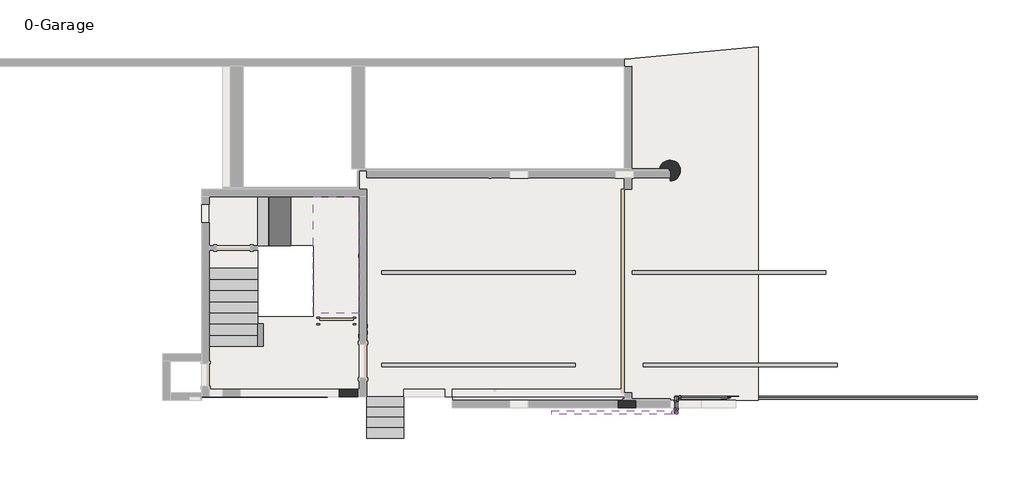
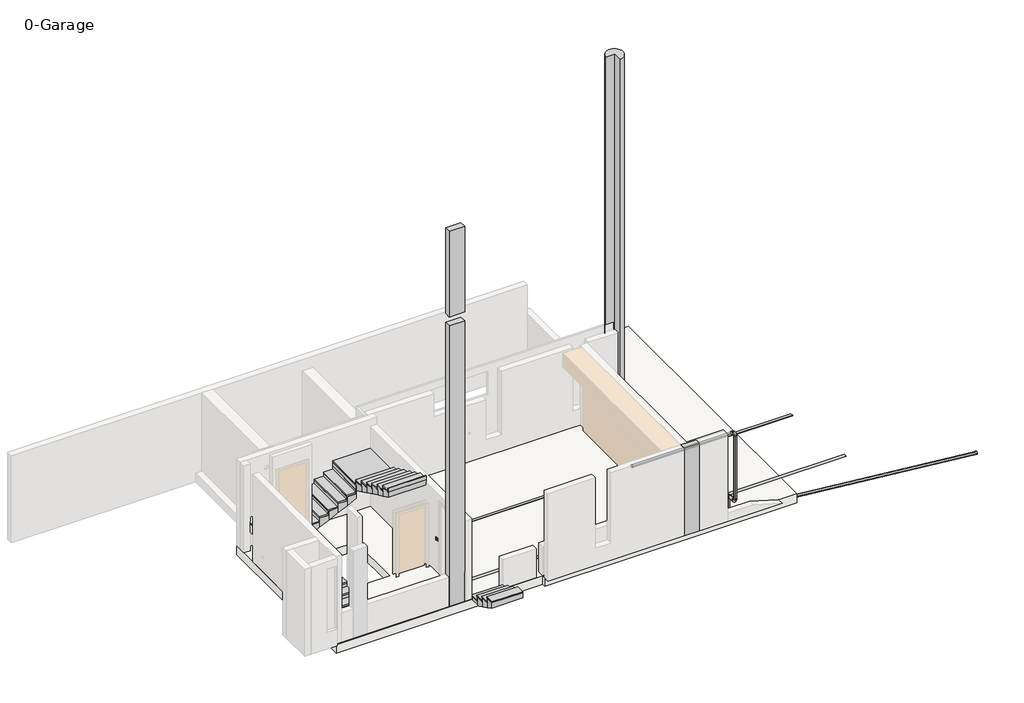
# One storey, part 2 of 2: 6 proxies, 5 pipe segments, 4 pipe fittings, 4 stair flights, 3 columns, 2 slabs, 2 switching devices.
"""IFC4 building model written with IfcOpenShell, lengths in millimetres."""

from ifc_helpers import new_model, si_unit, point, frame, frame_2d, origin, origin_with_axes, place, context, project, spatial, polyline, circle_curve, trimmed, segment, composite_curve, outline, extrude, faceted_brep, transform, mapped, element, save
from components import m_parking_space_4800_x_2400mm_90_deg_4f713f9d, wall_mounted_socket_ups_wall_mounted_socket_ups_4524048d, m_bend_pvc_sch_40_dwv_standard_a4b99d37, m_bend_pvc_sch_40_dwv_standard_eec6c4e3, switching_device_8f59fbb7, switching_device_ab05ab5c

model = new_model("IFC4")

# Units and contexts
model_context = context("Model", 3, world=origin())
ifc_project = project(units=[si_unit("LENGTHUNIT", "METRE", prefix="MILLI")], contexts=[model_context])

# Site, building, storey
site = spatial("IfcSite", under=ifc_project)
building = spatial("IfcBuilding", under=site)
storey = spatial("IfcBuildingStorey", under=building, Name="0-Garage", Elevation=0.0)

# Proxies
placement = place(None, origin())
m_parking_space_4800_x_2400mm_90_deg_shape = m_parking_space_4800_x_2400mm_90_deg_4f713f9d(model_context)
element("IfcBuildingElementProxy", 1, Name="M_Parking Space : 4800 x 2400mm - 90 deg", ObjectType="M_Parking Space : 4800 x 2400mm - 90 deg", at=placement, inside=storey, context=model_context, shape_type="MappedRepresentation", body=[
    mapped(m_parking_space_4800_x_2400mm_90_deg_shape, transform((-227.4765921, 6466.6818152, 0.0), x_axis=(0.0, 1.0, 0.0), y_axis=(-1.0, 0.0, 0.0), z_axis=(0.0, 0.0, 1.0))),
])
element("IfcBuildingElementProxy", 2, Name="M_Parking Space : 4800 x 2400mm - 90 deg", ObjectType="M_Parking Space : 4800 x 2400mm - 90 deg", at=placement, inside=storey, context=model_context, shape_type="MappedRepresentation", body=[
    mapped(m_parking_space_4800_x_2400mm_90_deg_shape, transform((6495.2431289, 6466.6818152, 0.0), x_axis=(0.0, 1.0, 0.0), y_axis=(-1.0, 0.0, 0.0), z_axis=(0.0, 0.0, 1.0))),
])
element("IfcBuildingElementProxy", 3, Name="M_Parking Space : 4800 x 2400mm - 90 deg", ObjectType="M_Parking Space : 4800 x 2400mm - 90 deg", at=placement, inside=storey, context=model_context, shape_type="MappedRepresentation", body=[
    mapped(m_parking_space_4800_x_2400mm_90_deg_shape, transform((-227.4765921, 3983.0788042, 0.0), x_axis=(0.0, 1.0, 0.0), y_axis=(-1.0, 0.0, 0.0), z_axis=(0.0, 0.0, 1.0))),
])
element("IfcBuildingElementProxy", 4, Name="M_Parking Space : 4800 x 2400mm - 90 deg", ObjectType="M_Parking Space : 4800 x 2400mm - 90 deg", at=placement, inside=storey, context=model_context, shape_type="MappedRepresentation", body=[
    mapped(m_parking_space_4800_x_2400mm_90_deg_shape, transform((6795.2431289, 3983.0788042, 0.0), x_axis=(0.0, 1.0, 0.0), y_axis=(-1.0, 0.0, 0.0), z_axis=(0.0, 0.0, 1.0))),
])
wall_mounted_socket_ups_wall_mounted_socket_ups_shape = wall_mounted_socket_ups_wall_mounted_socket_ups_4524048d(model_context)
element("IfcBuildingElementProxy", 5, Name="WALL MOUNTED SOCKET : WALL MOUNTED SOCKET", ObjectType="WALL MOUNTED SOCKET : WALL MOUNTED SOCKET", at=placement, inside=storey, context=model_context, shape_type="MappedRepresentation", body=[
    mapped(wall_mounted_socket_ups_wall_mounted_socket_ups_shape, transform((-827.4765921, 6914.4560655, 450.0), x_axis=(0.0, -1.0, 0.0), y_axis=(0.0, 0.0, 1.0), z_axis=(-1.0, 0.0, 0.0))),
])
element("IfcBuildingElementProxy", 6, Name="WALL MOUNTED SOCKET : WALL MOUNTED SOCKET", ObjectType="WALL MOUNTED SOCKET : WALL MOUNTED SOCKET", at=placement, inside=storey, context=model_context, shape_type="MappedRepresentation", body=[
    mapped(wall_mounted_socket_ups_wall_mounted_socket_ups_shape, transform((-627.4765921, 5024.4560655, 450.0), x_axis=(0.0, 1.0, 0.0), y_axis=(0.0, 0.0, 1.0), z_axis=(1.0, 0.0, 0.0))),
])

# Columns
element("IfcColumn", 7, ObjectType="M_Concrete-Rectangular-Column : 200 x500mm", at=placement, inside=storey, context=model_context, shape_type="SweptSolid", body=[
    extrude(outline(polyline([(6605.5234079, 3030.6486583), (6605.5234079, 2830.6486583), (6105.5234079, 2830.6486583), (6105.5234079, 3030.6486583), (6605.5234079, 3030.6486583)])), origin_with_axes(), (0.0, 0.0, 1.0), 3000.0),
])
element("IfcColumn", 8, ObjectType="M_Concrete-Rectangular-Column : 200 x500mm", at=placement, inside=storey, context=model_context, shape_type="Brep", body=[
    faceted_brep([(-1367.4765921, 3134.4560655, 0.0), (-1367.4765921, 3334.4560655, 0.0), (-867.4765921, 3334.4560655, 0.0), (-867.4765921, 3134.4560655, 0.0), (-1367.4765921, 3334.4560655, 9650.0), (-1367.4765921, 3134.4560655, 9650.0), (-867.4765921, 3134.4560655, 9650.0), (-867.4765921, 3334.4560655, 9650.0), (-1367.4765921, 3134.4560655, 1000.0), (-1367.4765921, 3134.4560655, 3000.0), (-1367.4765921, 3134.4560655, 6425.5545865), (-1367.4765921, 3134.4560655, 6550.0), (-1367.4765921, 3334.4560655, 6550.0), (-1367.4765921, 3334.4560655, 1000.0), (-867.4765921, 3334.4560655, 6550.0), (-867.4765921, 3134.4560655, 6550.0)], [[[0, 1, 2, 3]], [[4, 5, 6, 7]], [[1, 0, 8, 9, 10, 11, 5, 4, 12, 13]], [[2, 1, 13, 12, 4, 7, 14]], [[3, 2, 14, 7, 6, 15]], [[0, 3, 15, 6, 5, 11, 10, 9, 8]]]),
    faceted_brep([(-1367.4765921, 3134.4560655, 12900.0), (-1367.4765921, 3334.4560655, 12900.0), (-1367.4765921, 3334.4560655, 9950.0), (-1367.4765921, 3134.4560655, 9950.0), (-867.4765921, 3334.4560655, 12900.0), (-867.4765921, 3334.4560655, 9950.0), (-867.4765921, 3134.4560655, 12900.0), (-867.4765921, 3134.4560655, 9950.0)], [[[0, 1, 2, 3]], [[1, 4, 5, 2]], [[4, 6, 7, 5]], [[6, 0, 3, 7]], [[1, 0, 6, 4]], [[3, 2, 5, 7]]]),
])
element("IfcColumn", 9, ObjectType="Structural Columns 1 : Structural Columns 1", at=placement, inside=storey, context=model_context, shape_type="SweptSolid", body=[
    extrude(outline(composite_curve([segment(trimmed(circle_curve(frame_2d((7512.5234079, 9201.6620874)), 280.0), [point((7232.5234079, 9201.6620874))], [point((7512.5234079, 8921.6620874))], False, "CARTESIAN"), True, "CONTINUOUS"), segment(polyline([(7512.5234079, 8921.6620874), (7512.5234079, 9201.6620874), (7232.5234079, 9201.6620874)]), True, "CONTINUOUS")], self_intersect=False)), origin_with_axes(), (0.0, 0.0, 1.0), 12190.0),
])

# Pipe fittings
m_bend_pvc_sch_40_dwv_standard_shape = m_bend_pvc_sch_40_dwv_standard_a4b99d37(model_context)
element("IfcPipeFitting", 10, ObjectType="M_Bend - PVC - Sch 40 - DWV : Standard", at=placement, inside=storey, context=model_context, shape_type="MappedRepresentation", body=[
    mapped(m_bend_pvc_sch_40_dwv_standard_shape, transform((7680.5234079, 2705.8515547, 3090.0), x_axis=(1.0, 0.0, 0.0), y_axis=(0.0, 0.0, -1.0), z_axis=(0.0, 1.0, 0.0))),
])
element("IfcPipeFitting", 11, ObjectType="M_Bend - PVC - Sch 40 - DWV : Standard", at=placement, inside=storey, context=model_context, shape_type="MappedRepresentation", body=[
    mapped(m_bend_pvc_sch_40_dwv_standard_shape, transform((7680.5234079, 2705.8515547, 695.2), x_axis=(0.0, 0.0, -1.0), y_axis=(0.0, 1.0, 0.0), z_axis=(1.0, 0.0, 0.0))),
])
element("IfcPipeFitting", 12, ObjectType="M_Bend - PVC - Sch 40 - DWV : Standard", at=placement, inside=storey, context=model_context, shape_type="MappedRepresentation", body=[
    mapped(m_bend_pvc_sch_40_dwv_standard_shape, transform((7680.5234079, 3105.8515547, 695.2), x_axis=(0.0, 1.0, 0.0), y_axis=(0.0, 0.0, -1.0), z_axis=(-1.0, 0.0, 0.0))),
])
m_bend_pvc_sch_40_dwv_standard_2_shape = m_bend_pvc_sch_40_dwv_standard_eec6c4e3(model_context)
element("IfcPipeFitting", 13, ObjectType="M_Bend - PVC - Sch 40 - DWV : Standard", at=placement, inside=storey, context=model_context, shape_type="MappedRepresentation", body=[
    mapped(m_bend_pvc_sch_40_dwv_standard_2_shape, transform((7680.5234079, 3105.8515547, 100.0), x_axis=(0.0, 0.0, -1.0), y_axis=(0.9999999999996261, 8.648615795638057e-07, 0.0), z_axis=(8.648615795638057e-07, -0.9999999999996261, 0.0))),
])

# Pipe segments
element("IfcPipeSegment", 14, ObjectType="PVC - DWV", at=placement, inside=storey, context=model_context, shape_type="SweptSolid", body=[
    extrude(outline(composite_curve([segment(trimmed(circle_curve(frame_2d((2705.8515547, 3090.0)), 44.45), [point((2661.4015547, 3090.0))], [point((2705.8515547, 3134.45))], False, "CARTESIAN"), True, "CONTINUOUS"), segment(trimmed(circle_curve(frame_2d((2705.8515547, 3090.0)), 44.45), [point((2705.8515547, 3134.45))], [point((2750.3015547, 3090.0))], False, "CARTESIAN"), True, "CONTINUOUS"), segment(trimmed(circle_curve(frame_2d((2705.8515547, 3090.0)), 44.45), [point((2750.3015547, 3090.0))], [point((2705.8515547, 3045.55))], False, "CARTESIAN"), True, "CONTINUOUS"), segment(trimmed(circle_curve(frame_2d((2705.8515547, 3090.0)), 44.45), [point((2705.8515547, 3045.55))], [point((2661.4015547, 3090.0))], False, "CARTESIAN"), True, "CONTINUOUS")], self_intersect=False)), frame((4331.9107756, 0.0, 0.0), z_axis=(1.0, 0.0, 0.0), x_axis=(0.0, 1.0, 0.0)), (0.0, 0.0, 1.0), 3232.7124323),
])
element("IfcPipeSegment", 15, ObjectType="PVC - DWV", at=placement, inside=storey, context=model_context, shape_type="SweptSolid", body=[
    extrude(outline(composite_curve([segment(trimmed(circle_curve(frame_2d((7680.5234079, 2705.8515547)), 44.45), [point((7724.9734079, 2705.8515547))], [point((7680.5234079, 2661.4015547))], False, "CARTESIAN"), True, "CONTINUOUS"), segment(trimmed(circle_curve(frame_2d((7680.5234079, 2705.8515547)), 44.45), [point((7680.5234079, 2661.4015547))], [point((7636.0734079, 2705.8515547))], False, "CARTESIAN"), True, "CONTINUOUS"), segment(trimmed(circle_curve(frame_2d((7680.5234079, 2705.8515547)), 44.45), [point((7636.0734079, 2705.8515547))], [point((7680.5234079, 2750.3015547))], False, "CARTESIAN"), True, "CONTINUOUS"), segment(trimmed(circle_curve(frame_2d((7680.5234079, 2705.8515547)), 44.45), [point((7680.5234079, 2750.3015547))], [point((7724.9734079, 2705.8515547))], False, "CARTESIAN"), True, "CONTINUOUS")], self_intersect=False)), frame((0.0, 0.0, 811.1002), z_axis=(0.0, 0.0, 1.0), x_axis=(1.0, 0.0, 0.0)), (0.0, 0.0, 1.0), 2162.9996),
])
element("IfcPipeSegment", 16, ObjectType="PVC - DWV", at=placement, inside=storey, context=model_context, shape_type="SweptSolid", body=[
    extrude(outline(composite_curve([segment(trimmed(circle_curve(frame_2d((695.2, 7680.5234079)), 44.45), [point((695.2, 7724.9734079))], [point((739.65, 7680.5234079))], False, "CARTESIAN"), True, "CONTINUOUS"), segment(trimmed(circle_curve(frame_2d((695.2, 7680.5234079)), 44.45), [point((739.65, 7680.5234079))], [point((695.2, 7636.0734079))], False, "CARTESIAN"), True, "CONTINUOUS"), segment(trimmed(circle_curve(frame_2d((695.2, 7680.5234079)), 44.45), [point((695.2, 7636.0734079))], [point((650.75, 7680.5234079))], False, "CARTESIAN"), True, "CONTINUOUS"), segment(trimmed(circle_curve(frame_2d((695.2, 7680.5234079)), 44.45), [point((650.75, 7680.5234079))], [point((695.2, 7724.9734079))], False, "CARTESIAN"), True, "CONTINUOUS")], self_intersect=False)), frame((0.0, 2821.7517547, 0.0), z_axis=(0.0, 1.0, 0.0), x_axis=(0.0, 0.0, 1.0)), (0.0, 0.0, 1.0), 168.1996),
])
element("IfcPipeSegment", 17, ObjectType="PVC - DWV", at=placement, inside=storey, context=model_context, shape_type="SweptSolid", body=[
    extrude(outline(composite_curve([segment(trimmed(circle_curve(frame_2d((0.0, -44.45)), 44.45), [point((0.0003901, -88.9))], [point((-44.45, -44.4503902))], False, "CARTESIAN"), True, "CONTINUOUS"), segment(trimmed(circle_curve(frame_2d((0.0, -44.45)), 44.45), [point((-44.45, -44.4503902))], [point((-0.0003902, 0.0))], False, "CARTESIAN"), True, "CONTINUOUS"), segment(trimmed(circle_curve(frame_2d((0.0, -44.45)), 44.45), [point((-0.0003902, 0.0))], [point((44.45, -44.4496098))], False, "CARTESIAN"), True, "CONTINUOUS"), segment(trimmed(circle_curve(frame_2d((0.0, -44.45)), 44.45), [point((44.45, -44.4496098))], [point((0.0003901, -88.9))], False, "CARTESIAN"), True, "CONTINUOUS")], self_intersect=False)), frame((15760.4432184, 3150.3085427, -699.9996117), z_axis=(-0.9951341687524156, -8.606533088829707e-07, 0.09852911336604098), x_axis=(0.0985291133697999, -8.69251215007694e-06, 0.995134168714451)), (0.0, 0.0, 1.0), 8003.527375),
])
element("IfcPipeSegment", 18, ObjectType="PVC - DWV", at=placement, inside=storey, context=model_context, shape_type="SweptSolid", body=[
    extrude(outline(composite_curve([segment(trimmed(circle_curve(frame_2d((7680.5234079, 3105.8515547)), 44.45), [point((7724.9734079, 3105.8515547))], [point((7680.5234079, 3061.4015547))], False, "CARTESIAN"), True, "CONTINUOUS"), segment(trimmed(circle_curve(frame_2d((7680.5234079, 3105.8515547)), 44.45), [point((7680.5234079, 3061.4015547))], [point((7636.0734079, 3105.8515547))], False, "CARTESIAN"), True, "CONTINUOUS"), segment(trimmed(circle_curve(frame_2d((7680.5234079, 3105.8515547)), 44.45), [point((7636.0734079, 3105.8515547))], [point((7680.5234079, 3150.3015547))], False, "CARTESIAN"), True, "CONTINUOUS"), segment(trimmed(circle_curve(frame_2d((7680.5234079, 3105.8515547)), 44.45), [point((7680.5234079, 3150.3015547))], [point((7724.9734079, 3105.8515547))], False, "CARTESIAN"), True, "CONTINUOUS")], self_intersect=False)), frame((0.0, 0.0, 215.9002), z_axis=(0.0, 0.0, 1.0), x_axis=(1.0, 0.0, 0.0)), (0.0, 0.0, 1.0), 363.3996),
])

# Slabs
element("IfcSlab", 19, ObjectType="300mm Foundation Slab 2", at=placement, inside=storey, context=model_context, shape_type="Brep", body=[
    faceted_brep([(-5057.4765921, 3101.5321254, -300.0), (-5057.4765921, 4204.4560655, -300.0), (-5057.4765921, 8701.6620874, -300.0), (-877.4765921, 8701.6620874, -300.0), (-827.4765921, 8701.6620874, -300.0), (-827.4765921, 9201.6620874, -300.0), (6287.8774899, 9201.6620874, -300.0), (6287.8774899, 12182.7092562, -300.0), (9876.3853705, 12530.2666202, -300.0), (9876.3853705, 3030.6486583, -300.0), (1674.9666632, 3030.6486583, -300.0), (1674.9666632, 3134.4560655, -300.0), (-2057.4765921, 7184.4560654, -300.0), (-3557.4765921, 7184.4560654, -300.0), (-3557.4765921, 5284.4560655, -300.0), (-3407.4765921, 5284.4560655, -300.0), (-2207.4765921, 5284.4560655, -300.0), (-2057.4765921, 5284.4560655, -300.0), (-5057.4765921, 3101.5321254, 0.0), (1674.9666632, 3134.4560655, 0.0), (1674.9666632, 3030.6486583, 0.0), (9876.3853705, 3030.6486583, 0.0), (9876.3853705, 12530.2666202, 0.0), (6287.8774899, 12182.7092562, 0.0), (6287.8774899, 9201.6620874, 0.0), (-827.4765921, 9201.6620874, 0.0), (-827.4765921, 8701.6620874, 0.0), (-5057.4765921, 8701.6620874, 0.0), (-5057.4765921, 4204.4560655, 0.0), (-2057.4765921, 7184.4560654, 0.0), (-2057.4765921, 5284.4560655, 0.0), (-3557.4765921, 5284.4560655, 0.0), (-3557.4765921, 7184.4560654, 0.0)], [[[0, 1, 2, 3, 4, 5, 6, 7, 8, 9, 10, 11], [12, 13, 14, 15, 16, 17]], [[18, 19, 20, 21, 22, 23, 24, 25, 26, 27, 28], [29, 30, 31, 32]], [[1, 0, 18, 28]], [[2, 1, 28, 27]], [[4, 3, 2, 27, 26]], [[5, 4, 26, 25]], [[6, 5, 25, 24]], [[7, 6, 24, 23]], [[8, 7, 23, 22]], [[10, 9, 21, 20]], [[11, 10, 20, 19]], [[13, 12, 29, 32]], [[14, 13, 32, 31]], [[17, 16, 15, 14, 31, 30]], [[12, 17, 30, 29]], [[0, 11, 19, 18]], [[9, 8, 22, 21]]]),
])
element("IfcSlab", 20, ObjectType="300mm Thickness", at=placement, inside=storey, context=model_context, shape_type="SweptSolid", body=[
    extrude(outline(polyline([(-3557.4765921, 6584.4560655), (-4857.4765921, 6584.4560655), (-4857.4765921, 8501.6620874), (-3557.4765921, 8501.6620874), (-3557.4765921, 6584.4560655)])), frame((0.0, 0.0, 650.0), z_axis=(0.0, 0.0, 1.0), x_axis=(1.0, 0.0, 0.0)), (0.0, 0.0, 1.0), 300.0),
    extrude(outline(polyline([(-4857.4765921, 6584.4560655), (-4857.4765921, 8501.6620874), (-3557.4765921, 8501.6620874), (-3557.4765921, 6584.4560655), (-4857.4765921, 6584.4560655)])), frame((0.0, 0.0, 950.0), z_axis=(0.0, 0.0, 1.0), x_axis=(1.0, 0.0, 0.0)), (0.0, 0.0, 1.0), 50.0),
])

# Stair flights
element("IfcStairFlight", 21, ObjectType="150mm Depth", at=placement, inside=storey, context=model_context, shape_type="SolidModel", body=[
    faceted_brep([(372.5234079, 2821.9560655, 115.0), (372.5234079, 3101.9560655, 115.0), (-627.4765921, 3101.9560655, 115.0), (-627.4765921, 2821.9560655, 115.0), (372.5234079, 2821.9560655, 0.0), (372.5234079, 3101.9560655, 0.0), (-627.4765921, 3101.9560655, 0.0), (-627.4765921, 2821.9560655, 0.0), (372.5234079, 2541.9560655, 260.0), (372.5234079, 2821.9560655, 260.0), (-627.4765921, 2821.9560655, 260.0), (-627.4765921, 2541.9560655, 260.0), (372.5234079, 2541.9560655, 91.0800176), (372.5234079, 2717.8347201, 0.0), (-627.4765921, 2717.8347201, 0.0), (-627.4765921, 2541.9560655, 91.0800176), (372.5234079, 2261.9560655, 405.0), (372.5234079, 2541.9560655, 405.0), (-627.4765921, 2541.9560655, 405.0), (-627.4765921, 2261.9560655, 405.0), (372.5234079, 2261.9560655, 236.0800176), (-627.4765921, 2261.9560655, 236.0800176), (372.5234079, 2014.4560655, 364.2496604), (-627.4765921, 2014.4560655, 364.2496604), (372.5234079, 2014.4560655, 550.0), (372.5234079, 2261.9560655, 550.0), (-627.4765921, 2261.9560655, 550.0), (-627.4765921, 2014.4560655, 550.0)], [[[0, 1, 2, 3]], [[1, 0, 4, 5]], [[2, 1, 5, 6]], [[3, 2, 6, 7]], [[8, 9, 10, 11]], [[4, 0, 9, 8, 12, 13]], [[0, 3, 10, 9]], [[3, 7, 14, 15, 11, 10]], [[16, 17, 18, 19]], [[17, 16, 20, 12, 8]], [[8, 11, 18, 17]], [[19, 18, 11, 15, 21]], [[5, 4, 13, 14, 7, 6]], [[14, 13, 12, 20, 22, 23, 21, 15]], [[24, 25, 26, 27]], [[25, 24, 22, 20, 16]], [[16, 19, 26, 25]], [[27, 26, 19, 21, 23]], [[24, 27, 23, 22]]]),
    extrude(outline(polyline([(-627.4765921, 3101.9560655), (-627.4765921, 3114.4560655), (372.5234079, 3114.4560655), (372.5234079, 3101.9560655), (-627.4765921, 3101.9560655)])), origin_with_axes(), (0.0, 0.0, 1.0), 115.0),
    extrude(outline(polyline([(372.5234079, 2834.4560655), (-627.4765921, 2834.4560655), (-627.4765921, 3134.4560655), (372.5234079, 3134.4560655), (372.5234079, 2834.4560655)])), frame((0.0, 0.0, 115.0), z_axis=(0.0, 0.0, 1.0), x_axis=(1.0, 0.0, 0.0)), (0.0, 0.0, 1.0), 30.0),
    extrude(outline(polyline([(-627.4765921, 2821.9560655), (-627.4765921, 2834.4560655), (372.5234079, 2834.4560655), (372.5234079, 2821.9560655), (-627.4765921, 2821.9560655)])), frame((0.0, 0.0, 115.0), z_axis=(0.0, 0.0, 1.0), x_axis=(1.0, 0.0, 0.0)), (0.0, 0.0, 1.0), 145.0),
    extrude(outline(polyline([(372.5234079, 2554.4560655), (-627.4765921, 2554.4560655), (-627.4765921, 2854.4560655), (372.5234079, 2854.4560655), (372.5234079, 2554.4560655)])), frame((0.0, 0.0, 260.0), z_axis=(0.0, 0.0, 1.0), x_axis=(1.0, 0.0, 0.0)), (0.0, 0.0, 1.0), 30.0),
    extrude(outline(polyline([(-627.4765921, 2541.9560655), (-627.4765921, 2554.4560655), (372.5234079, 2554.4560655), (372.5234079, 2541.9560655), (-627.4765921, 2541.9560655)])), frame((0.0, 0.0, 260.0), z_axis=(0.0, 0.0, 1.0), x_axis=(1.0, 0.0, 0.0)), (0.0, 0.0, 1.0), 145.0),
    extrude(outline(polyline([(372.5234079, 2274.4560655), (-627.4765921, 2274.4560655), (-627.4765921, 2574.4560655), (372.5234079, 2574.4560655), (372.5234079, 2274.4560655)])), frame((0.0, 0.0, 405.0), z_axis=(0.0, 0.0, 1.0), x_axis=(1.0, 0.0, 0.0)), (0.0, 0.0, 1.0), 30.0),
    extrude(outline(polyline([(-627.4765921, 2261.9560655), (-627.4765921, 2274.4560655), (372.5234079, 2274.4560655), (372.5234079, 2261.9560655), (-627.4765921, 2261.9560655)])), frame((0.0, 0.0, 405.0), z_axis=(0.0, 0.0, 1.0), x_axis=(1.0, 0.0, 0.0)), (0.0, 0.0, 1.0), 145.0),
    extrude(outline(polyline([(372.5234079, 2014.4560655), (-627.4765921, 2014.4560655), (-627.4765921, 2294.4560655), (372.5234079, 2294.4560655), (372.5234079, 2014.4560655)])), frame((0.0, 0.0, 550.0), z_axis=(0.0, 0.0, 1.0), x_axis=(1.0, 0.0, 0.0)), (0.0, 0.0, 1.0), 30.0),
])
element("IfcStairFlight", 22, ObjectType="full", at=placement, inside=storey, context=model_context, shape_type="SolidModel", body=[
    faceted_brep([(-4857.4765921, 4796.9560655, 92.8571429), (-4857.4765921, 4496.9560655, 92.8571429), (-3557.4765921, 4496.9560655, 92.8571429), (-3557.4765921, 4796.9560655, 92.8571429), (-4857.4765921, 4796.9560655, 0.0), (-4857.4765921, 4496.9560655, 0.0), (-3557.4765921, 4496.9560655, 0.0), (-3557.4765921, 4796.9560655, 0.0), (-4857.4765921, 5096.9560655, 235.7142857), (-4857.4765921, 4796.9560655, 235.7142857), (-3557.4765921, 4796.9560655, 235.7142857), (-3557.4765921, 5096.9560655, 235.7142857), (-4857.4765921, 5096.9560655, 69.5756664), (-4857.4765921, 4950.847166, 0.0), (-3557.4765921, 4950.847166, 0.0), (-3557.4765921, 5096.9560655, 69.5756664), (-4857.4765921, 5396.9560655, 378.5714286), (-4857.4765921, 5096.9560655, 378.5714286), (-3557.4765921, 5096.9560655, 378.5714286), (-3557.4765921, 5396.9560655, 378.5714286), (-4857.4765921, 5396.9560655, 212.4328093), (-3557.4765921, 5396.9560655, 212.4328093), (-4857.4765921, 5696.9560655, 521.4285714), (-4857.4765921, 5396.9560655, 521.4285714), (-3557.4765921, 5396.9560655, 521.4285714), (-3557.4765921, 5696.9560655, 521.4285714), (-4857.4765921, 5696.9560655, 355.2899521), (-3557.4765921, 5696.9560655, 355.2899521), (-4857.4765921, 5996.9560655, 664.2857143), (-4857.4765921, 5696.9560655, 664.2857143), (-3557.4765921, 5696.9560655, 664.2857143), (-3557.4765921, 5996.9560655, 664.2857143), (-4857.4765921, 5996.9560655, 498.147095), (-3557.4765921, 5996.9560655, 498.147095), (-4857.4765921, 6296.9560655, 807.1428571), (-4857.4765921, 5996.9560655, 807.1428571), (-3557.4765921, 5996.9560655, 807.1428571), (-3557.4765921, 6296.9560655, 807.1428571), (-4857.4765921, 6296.9560655, 641.0042379), (-3557.4765921, 6296.9560655, 641.0042379), (-4857.4765921, 6315.847166, 650.0), (-3557.4765921, 6315.847166, 650.0), (-4857.4765921, 6296.9560655, 950.0), (-3557.4765921, 6296.9560655, 950.0), (-3557.4765921, 6315.847166, 950.0), (-3557.4765921, 6584.4560655, 950.0), (-4857.4765921, 6584.4560655, 950.0), (-4857.4765921, 6315.847166, 950.0), (-4857.4765921, 6584.4560655, 650.0), (-3557.4765921, 6584.4560655, 650.0)], [[[0, 1, 2, 3]], [[1, 0, 4, 5]], [[2, 1, 5, 6]], [[3, 2, 6, 7]], [[8, 9, 10, 11]], [[4, 0, 9, 8, 12, 13]], [[0, 3, 10, 9]], [[3, 7, 14, 15, 11, 10]], [[16, 17, 18, 19]], [[17, 16, 20, 12, 8]], [[8, 11, 18, 17]], [[19, 18, 11, 15, 21]], [[22, 23, 24, 25]], [[23, 22, 26, 20, 16]], [[16, 19, 24, 23]], [[25, 24, 19, 21, 27]], [[28, 29, 30, 31]], [[29, 28, 32, 26, 22]], [[22, 25, 30, 29]], [[31, 30, 25, 27, 33]], [[34, 35, 36, 37]], [[35, 34, 38, 32, 28]], [[28, 31, 36, 35]], [[37, 36, 31, 33, 39]], [[5, 4, 13, 14, 7, 6]], [[40, 41, 39, 33, 27, 21, 15, 14, 13, 12, 20, 26, 32, 38]], [[42, 43, 44, 45, 46, 47]], [[34, 42, 47, 46, 48, 40, 38]], [[34, 37, 43, 42]], [[43, 37, 39, 41, 49, 45, 44]], [[46, 45, 49, 48]], [[41, 40, 48, 49]]]),
    extrude(outline(polyline([(-3557.4765921, 4496.9560655), (-3557.4765921, 4484.4560655), (-4857.4765921, 4484.4560655), (-4857.4765921, 4496.9560655), (-3557.4765921, 4496.9560655)])), origin_with_axes(), (0.0, 0.0, 1.0), 92.8571429),
    extrude(outline(polyline([(-4857.4765921, 4784.4560655), (-3557.4765921, 4784.4560655), (-3557.4765921, 4484.4560655), (-4857.4765921, 4484.4560655), (-4857.4765921, 4784.4560655)])), frame((0.0, 0.0, 92.8571429), z_axis=(0.0, 0.0, 1.0), x_axis=(1.0, 0.0, 0.0)), (0.0, 0.0, 1.0), 50.0),
    extrude(outline(polyline([(-3557.4765921, 4796.9560655), (-3557.4765921, 4784.4560655), (-4857.4765921, 4784.4560655), (-4857.4765921, 4796.9560655), (-3557.4765921, 4796.9560655)])), frame((0.0, 0.0, 92.8571429), z_axis=(0.0, 0.0, 1.0), x_axis=(1.0, 0.0, 0.0)), (0.0, 0.0, 1.0), 142.8571429),
    extrude(outline(polyline([(-4857.4765921, 5084.4560655), (-3557.4765921, 5084.4560655), (-3557.4765921, 4784.4560655), (-4857.4765921, 4784.4560655), (-4857.4765921, 5084.4560655)])), frame((0.0, 0.0, 235.7142857), z_axis=(0.0, 0.0, 1.0), x_axis=(1.0, 0.0, 0.0)), (0.0, 0.0, 1.0), 50.0),
    extrude(outline(polyline([(-3557.4765921, 5096.9560655), (-3557.4765921, 5084.4560655), (-4857.4765921, 5084.4560655), (-4857.4765921, 5096.9560655), (-3557.4765921, 5096.9560655)])), frame((0.0, 0.0, 235.7142857), z_axis=(0.0, 0.0, 1.0), x_axis=(1.0, 0.0, 0.0)), (0.0, 0.0, 1.0), 142.8571429),
    extrude(outline(polyline([(-4857.4765921, 5384.4560655), (-3557.4765921, 5384.4560655), (-3557.4765921, 5084.4560655), (-4857.4765921, 5084.4560655), (-4857.4765921, 5384.4560655)])), frame((0.0, 0.0, 378.5714286), z_axis=(0.0, 0.0, 1.0), x_axis=(1.0, 0.0, 0.0)), (0.0, 0.0, 1.0), 50.0),
    extrude(outline(polyline([(-3557.4765921, 5396.9560655), (-3557.4765921, 5384.4560655), (-4857.4765921, 5384.4560655), (-4857.4765921, 5396.9560655), (-3557.4765921, 5396.9560655)])), frame((0.0, 0.0, 378.5714286), z_axis=(0.0, 0.0, 1.0), x_axis=(1.0, 0.0, 0.0)), (0.0, 0.0, 1.0), 142.8571429),
    extrude(outline(polyline([(-4857.4765921, 5684.4560655), (-3557.4765921, 5684.4560655), (-3557.4765921, 5384.4560655), (-4857.4765921, 5384.4560655), (-4857.4765921, 5684.4560655)])), frame((0.0, 0.0, 521.4285714), z_axis=(0.0, 0.0, 1.0), x_axis=(1.0, 0.0, 0.0)), (0.0, 0.0, 1.0), 50.0),
    extrude(outline(polyline([(-3557.4765921, 5696.9560655), (-3557.4765921, 5684.4560655), (-4857.4765921, 5684.4560655), (-4857.4765921, 5696.9560655), (-3557.4765921, 5696.9560655)])), frame((0.0, 0.0, 521.4285714), z_axis=(0.0, 0.0, 1.0), x_axis=(1.0, 0.0, 0.0)), (0.0, 0.0, 1.0), 142.8571429),
    extrude(outline(polyline([(-4857.4765921, 5984.4560655), (-3557.4765921, 5984.4560655), (-3557.4765921, 5684.4560655), (-4857.4765921, 5684.4560655), (-4857.4765921, 5984.4560655)])), frame((0.0, 0.0, 664.2857143), z_axis=(0.0, 0.0, 1.0), x_axis=(1.0, 0.0, 0.0)), (0.0, 0.0, 1.0), 50.0),
    extrude(outline(polyline([(-3557.4765921, 5996.9560655), (-3557.4765921, 5984.4560655), (-4857.4765921, 5984.4560655), (-4857.4765921, 5996.9560655), (-3557.4765921, 5996.9560655)])), frame((0.0, 0.0, 664.2857143), z_axis=(0.0, 0.0, 1.0), x_axis=(1.0, 0.0, 0.0)), (0.0, 0.0, 1.0), 142.8571429),
    extrude(outline(polyline([(-4857.4765921, 6284.4560655), (-3557.4765921, 6284.4560655), (-3557.4765921, 5984.4560655), (-4857.4765921, 5984.4560655), (-4857.4765921, 6284.4560655)])), frame((0.0, 0.0, 807.1428571), z_axis=(0.0, 0.0, 1.0), x_axis=(1.0, 0.0, 0.0)), (0.0, 0.0, 1.0), 50.0),
    extrude(outline(polyline([(-3557.4765921, 6296.9560655), (-3557.4765921, 6284.4560655), (-4857.4765921, 6284.4560655), (-4857.4765921, 6296.9560655), (-3557.4765921, 6296.9560655)])), frame((0.0, 0.0, 807.1428571), z_axis=(0.0, 0.0, 1.0), x_axis=(1.0, 0.0, 0.0)), (0.0, 0.0, 1.0), 142.8571429),
    extrude(outline(polyline([(-4857.4765921, 6584.4560655), (-3557.4765921, 6584.4560655), (-3557.4765921, 6284.4560655), (-4857.4765921, 6284.4560655), (-4857.4765921, 6584.4560655)])), frame((0.0, 0.0, 950.0), z_axis=(0.0, 0.0, 1.0), x_axis=(1.0, 0.0, 0.0)), (0.0, 0.0, 1.0), 50.0),
])
element("IfcStairFlight", 23, ObjectType="full", at=placement, inside=storey, context=model_context, shape_type="SolidModel", body=[
    faceted_brep([(-3244.9765921, 8501.6620874, 1092.8571429), (-3557.4765921, 8501.6620874, 1092.8571429), (-3557.4765921, 7184.4560655, 1092.8571429), (-3244.9765921, 7184.4560655, 1092.8571429), (-3244.9765921, 8501.6620874, 926.7185236), (-3557.4765921, 8501.6620874, 777.9089998), (-3557.4765921, 7184.4560655, 777.9089998), (-3244.9765921, 7184.4560655, 926.7185236), (-2944.9765921, 8501.6620874, 1069.5756664), (-2644.9765921, 8501.6620874, 1212.4328093), (-2344.9765921, 8501.6620874, 1355.2899521), (-2044.9765921, 8501.6620874, 1498.147095), (-2044.9765921, 7184.4560655, 1498.147095), (-2344.9765921, 7184.4560655, 1355.2899521), (-2644.9765921, 7184.4560655, 1212.4328093), (-2944.9765921, 7184.4560655, 1069.5756664), (-2944.9765921, 8501.6620874, 1235.7142857), (-3244.9765921, 8501.6620874, 1235.7142857), (-3244.9765921, 7184.4560655, 1235.7142857), (-2944.9765921, 7184.4560655, 1235.7142857), (-2644.9765921, 8501.6620874, 1378.5714286), (-2944.9765921, 8501.6620874, 1378.5714286), (-2944.9765921, 7184.4560655, 1378.5714286), (-2644.9765921, 7184.4560655, 1378.5714286), (-2344.9765921, 8501.6620874, 1521.4285714), (-2644.9765921, 8501.6620874, 1521.4285714), (-2644.9765921, 7184.4560655, 1521.4285714), (-2344.9765921, 7184.4560655, 1521.4285714), (-2044.9765921, 8501.6620874, 1664.2857143), (-2344.9765921, 8501.6620874, 1664.2857143), (-2344.9765921, 7184.4560655, 1664.2857143), (-2044.9765921, 7184.4560655, 1664.2857143)], [[[0, 1, 2, 3]], [[1, 0, 4, 5]], [[2, 1, 5, 6]], [[3, 2, 6, 7]], [[5, 4, 8, 9, 10, 11, 12, 13, 14, 15, 7, 6]], [[16, 17, 18, 19]], [[17, 16, 8, 4, 0]], [[18, 17, 0, 3]], [[19, 18, 3, 7, 15]], [[20, 21, 22, 23]], [[21, 20, 9, 8, 16]], [[22, 21, 16, 19]], [[23, 22, 19, 15, 14]], [[24, 25, 26, 27]], [[25, 24, 10, 9, 20]], [[26, 25, 20, 23]], [[27, 26, 23, 14, 13]], [[28, 29, 30, 31]], [[29, 28, 11, 10, 24]], [[30, 29, 24, 27]], [[31, 30, 27, 13, 12]], [[28, 31, 12, 11]]]),
    extrude(outline(polyline([(-3257.4765921, 8501.6620874), (-3257.4765921, 7184.4560655), (-3557.4765921, 7184.4560655), (-3557.4765921, 8501.6620874), (-3257.4765921, 8501.6620874)])), frame((0.0, 0.0, 1092.8571429), z_axis=(0.0, 0.0, 1.0), x_axis=(1.0, 0.0, 0.0)), (0.0, 0.0, 1.0), 50.0),
    extrude(outline(polyline([(-3244.9765921, 7184.4560655), (-3257.4765921, 7184.4560655), (-3257.4765921, 8501.6620874), (-3244.9765921, 8501.6620874), (-3244.9765921, 7184.4560655)])), frame((0.0, 0.0, 1092.8571429), z_axis=(0.0, 0.0, 1.0), x_axis=(1.0, 0.0, 0.0)), (0.0, 0.0, 1.0), 142.8571429),
    extrude(outline(polyline([(-2957.4765921, 8501.6620874), (-2957.4765921, 7184.4560655), (-3257.4765921, 7184.4560655), (-3257.4765921, 8501.6620874), (-2957.4765921, 8501.6620874)])), frame((0.0, 0.0, 1235.7142857), z_axis=(0.0, 0.0, 1.0), x_axis=(1.0, 0.0, 0.0)), (0.0, 0.0, 1.0), 50.0),
    extrude(outline(polyline([(-2944.9765921, 7184.4560655), (-2957.4765921, 7184.4560655), (-2957.4765921, 8501.6620874), (-2944.9765921, 8501.6620874), (-2944.9765921, 7184.4560655)])), frame((0.0, 0.0, 1235.7142857), z_axis=(0.0, 0.0, 1.0), x_axis=(1.0, 0.0, 0.0)), (0.0, 0.0, 1.0), 142.8571429),
    extrude(outline(polyline([(-2657.4765921, 8501.6620874), (-2657.4765921, 7184.4560655), (-2957.4765921, 7184.4560655), (-2957.4765921, 8501.6620874), (-2657.4765921, 8501.6620874)])), frame((0.0, 0.0, 1378.5714286), z_axis=(0.0, 0.0, 1.0), x_axis=(1.0, 0.0, 0.0)), (0.0, 0.0, 1.0), 50.0),
    extrude(outline(polyline([(-2644.9765921, 7184.4560655), (-2657.4765921, 7184.4560655), (-2657.4765921, 8501.6620874), (-2644.9765921, 8501.6620874), (-2644.9765921, 7184.4560655)])), frame((0.0, 0.0, 1378.5714286), z_axis=(0.0, 0.0, 1.0), x_axis=(1.0, 0.0, 0.0)), (0.0, 0.0, 1.0), 142.8571429),
    extrude(outline(polyline([(-2357.4765921, 8501.6620874), (-2357.4765921, 7184.4560655), (-2657.4765921, 7184.4560655), (-2657.4765921, 8501.6620874), (-2357.4765921, 8501.6620874)])), frame((0.0, 0.0, 1521.4285714), z_axis=(0.0, 0.0, 1.0), x_axis=(1.0, 0.0, 0.0)), (0.0, 0.0, 1.0), 50.0),
    extrude(outline(polyline([(-2344.9765921, 7184.4560655), (-2357.4765921, 7184.4560655), (-2357.4765921, 8501.6620874), (-2344.9765921, 8501.6620874), (-2344.9765921, 7184.4560655)])), frame((0.0, 0.0, 1521.4285714), z_axis=(0.0, 0.0, 1.0), x_axis=(1.0, 0.0, 0.0)), (0.0, 0.0, 1.0), 142.8571429),
    extrude(outline(polyline([(-2044.9765921, 7184.4560655), (-2057.4765921, 7184.4560655), (-2057.4765921, 8501.6620874), (-2044.9765921, 8501.6620874), (-2044.9765921, 7184.4560655)])), frame((0.0, 0.0, 1664.2857143), z_axis=(0.0, 0.0, 1.0), x_axis=(1.0, 0.0, 0.0)), (0.0, 0.0, 1.0), 142.8571429),
    extrude(outline(polyline([(-2057.4765921, 8501.6620874), (-2057.4765921, 7184.4560655), (-2357.4765921, 7184.4560655), (-2357.4765921, 8501.6620874), (-2057.4765921, 8501.6620874)])), frame((0.0, 0.0, 1664.2857143), z_axis=(0.0, 0.0, 1.0), x_axis=(1.0, 0.0, 0.0)), (0.0, 0.0, 1.0), 50.0),
])
element("IfcStairFlight", 24, ObjectType="full", at=placement, inside=storey, context=model_context, shape_type="SolidModel", body=[
    faceted_brep([(-827.4765921, 7171.9560655, 1950.0), (-827.4765921, 7184.4560655, 1950.0), (-827.4765921, 8501.6620874, 1950.0), (-2057.4765921, 8501.6620874, 1950.0), (-2057.4765921, 7184.4560655, 1950.0), (-2057.4765921, 7171.9560655, 1950.0), (-827.4765921, 7171.9560655, 1800.0), (-827.4765921, 7184.4560655, 1800.0), (-2057.4765921, 8501.6620874, 1800.0), (-2057.4765921, 7184.4560655, 1800.0), (-2057.4765921, 7171.9560655, 1800.0), (-827.4765921, 7138.064965, 1800.0), (-2057.4765921, 7138.064965, 1800.0), (-827.4765921, 8501.6620874, 1800.0), (-827.4765921, 7171.9560655, 2092.8571429), (-2057.4765921, 7171.9560655, 2092.8571429), (-2057.4765921, 7138.064965, 2092.8571429), (-2057.4765921, 6871.9560655, 2092.8571429), (-827.4765921, 6871.9560655, 2092.8571429), (-827.4765921, 7138.064965, 2092.8571429), (-827.4765921, 6871.9560655, 1926.7185236), (-2057.4765921, 6871.9560655, 1926.7185236), (-827.4765921, 6571.9560655, 2235.7142857), (-827.4765921, 6871.9560655, 2235.7142857), (-2057.4765921, 6871.9560655, 2235.7142857), (-2057.4765921, 6571.9560655, 2235.7142857), (-827.4765921, 6571.9560655, 2069.5756664), (-2057.4765921, 6571.9560655, 2069.5756664), (-827.4765921, 6271.9560655, 2378.5714286), (-827.4765921, 6571.9560655, 2378.5714286), (-2057.4765921, 6571.9560655, 2378.5714286), (-2057.4765921, 6271.9560655, 2378.5714286), (-827.4765921, 6271.9560655, 2212.4328093), (-2057.4765921, 6271.9560655, 2212.4328093), (-827.4765921, 5971.9560655, 2521.4285714), (-827.4765921, 6271.9560655, 2521.4285714), (-2057.4765921, 6271.9560655, 2521.4285714), (-2057.4765921, 5971.9560655, 2521.4285714), (-827.4765921, 5971.9560655, 2355.2899521), (-2057.4765921, 5971.9560655, 2355.2899521), (-827.4765921, 5671.9560655, 2664.2857143), (-827.4765921, 5971.9560655, 2664.2857143), (-2057.4765921, 5971.9560655, 2664.2857143), (-2057.4765921, 5671.9560655, 2664.2857143), (-827.4765921, 5671.9560655, 2498.147095), (-2057.4765921, 5671.9560655, 2498.147095), (-827.4765921, 5371.9560655, 2807.1428571), (-827.4765921, 5671.9560655, 2807.1428571), (-2057.4765921, 5671.9560655, 2807.1428571), (-2057.4765921, 5371.9560655, 2807.1428571), (-827.4765921, 5371.9560655, 2641.0042379), (-2057.4765921, 5371.9560655, 2641.0042379)], [[[0, 1, 2, 3, 4, 5]], [[1, 0, 6, 7]], [[4, 3, 8, 9]], [[5, 4, 9, 10]], [[11, 12, 10, 9, 8, 13, 7, 6]], [[14, 15, 16, 17, 18, 19]], [[0, 14, 19, 18, 20, 11, 6]], [[15, 14, 0, 5]], [[15, 5, 10, 12, 21, 17, 16]], [[22, 23, 24, 25]], [[23, 22, 26, 20, 18]], [[24, 23, 18, 17]], [[25, 24, 17, 21, 27]], [[28, 29, 30, 31]], [[29, 28, 32, 26, 22]], [[30, 29, 22, 25]], [[31, 30, 25, 27, 33]], [[34, 35, 36, 37]], [[35, 34, 38, 32, 28]], [[36, 35, 28, 31]], [[37, 36, 31, 33, 39]], [[40, 41, 42, 43]], [[41, 40, 44, 38, 34]], [[42, 41, 34, 37]], [[43, 42, 37, 39, 45]], [[2, 1, 7, 13]], [[3, 2, 13, 8]], [[46, 47, 48, 49]], [[47, 46, 50, 44, 40]], [[48, 47, 40, 43]], [[49, 48, 43, 45, 51]], [[46, 49, 51, 50]], [[12, 11, 20, 26, 32, 38, 44, 50, 51, 45, 39, 33, 27, 21]]]),
    extrude(outline(polyline([(-827.4765921, 7184.4560655), (-2057.4765921, 7184.4560655), (-2057.4765921, 8501.6620874), (-827.4765921, 8501.6620874), (-827.4765921, 7184.4560655)])), frame((0.0, 0.0, 1950.0), z_axis=(0.0, 0.0, 1.0), x_axis=(1.0, 0.0, 0.0)), (0.0, 0.0, 1.0), 50.0),
    extrude(outline(polyline([(-2057.4765921, 7171.9560655), (-2057.4765921, 7184.4560655), (-827.4765921, 7184.4560655), (-827.4765921, 7171.9560655), (-2057.4765921, 7171.9560655)])), frame((0.0, 0.0, 1950.0), z_axis=(0.0, 0.0, 1.0), x_axis=(1.0, 0.0, 0.0)), (0.0, 0.0, 1.0), 142.8571429),
    extrude(outline(polyline([(-827.4765921, 6884.4560655), (-2057.4765921, 6884.4560655), (-2057.4765921, 7184.4560655), (-827.4765921, 7184.4560655), (-827.4765921, 6884.4560655)])), frame((0.0, 0.0, 2092.8571429), z_axis=(0.0, 0.0, 1.0), x_axis=(1.0, 0.0, 0.0)), (0.0, 0.0, 1.0), 50.0),
    extrude(outline(polyline([(-2057.4765921, 6871.9560655), (-2057.4765921, 6884.4560655), (-827.4765921, 6884.4560655), (-827.4765921, 6871.9560655), (-2057.4765921, 6871.9560655)])), frame((0.0, 0.0, 2092.8571429), z_axis=(0.0, 0.0, 1.0), x_axis=(1.0, 0.0, 0.0)), (0.0, 0.0, 1.0), 142.8571429),
    extrude(outline(polyline([(-827.4765921, 6584.4560655), (-2057.4765921, 6584.4560655), (-2057.4765921, 6884.4560655), (-827.4765921, 6884.4560655), (-827.4765921, 6584.4560655)])), frame((0.0, 0.0, 2235.7142857), z_axis=(0.0, 0.0, 1.0), x_axis=(1.0, 0.0, 0.0)), (0.0, 0.0, 1.0), 50.0),
    extrude(outline(polyline([(-2057.4765921, 6571.9560655), (-2057.4765921, 6584.4560655), (-827.4765921, 6584.4560655), (-827.4765921, 6571.9560655), (-2057.4765921, 6571.9560655)])), frame((0.0, 0.0, 2235.7142857), z_axis=(0.0, 0.0, 1.0), x_axis=(1.0, 0.0, 0.0)), (0.0, 0.0, 1.0), 142.8571429),
    extrude(outline(polyline([(-827.4765921, 6284.4560655), (-2057.4765921, 6284.4560655), (-2057.4765921, 6584.4560655), (-827.4765921, 6584.4560655), (-827.4765921, 6284.4560655)])), frame((0.0, 0.0, 2378.5714286), z_axis=(0.0, 0.0, 1.0), x_axis=(1.0, 0.0, 0.0)), (0.0, 0.0, 1.0), 50.0),
    extrude(outline(polyline([(-2057.4765921, 6271.9560655), (-2057.4765921, 6284.4560655), (-827.4765921, 6284.4560655), (-827.4765921, 6271.9560655), (-2057.4765921, 6271.9560655)])), frame((0.0, 0.0, 2378.5714286), z_axis=(0.0, 0.0, 1.0), x_axis=(1.0, 0.0, 0.0)), (0.0, 0.0, 1.0), 142.8571429),
    extrude(outline(polyline([(-827.4765921, 5984.4560655), (-2057.4765921, 5984.4560655), (-2057.4765921, 6284.4560655), (-827.4765921, 6284.4560655), (-827.4765921, 5984.4560655)])), frame((0.0, 0.0, 2521.4285714), z_axis=(0.0, 0.0, 1.0), x_axis=(1.0, 0.0, 0.0)), (0.0, 0.0, 1.0), 50.0),
    extrude(outline(polyline([(-2057.4765921, 5971.9560655), (-2057.4765921, 5984.4560655), (-827.4765921, 5984.4560655), (-827.4765921, 5971.9560655), (-2057.4765921, 5971.9560655)])), frame((0.0, 0.0, 2521.4285714), z_axis=(0.0, 0.0, 1.0), x_axis=(1.0, 0.0, 0.0)), (0.0, 0.0, 1.0), 142.8571429),
    extrude(outline(polyline([(-827.4765921, 5684.4560655), (-2057.4765921, 5684.4560655), (-2057.4765921, 5984.4560655), (-827.4765921, 5984.4560655), (-827.4765921, 5684.4560655)])), frame((0.0, 0.0, 2664.2857143), z_axis=(0.0, 0.0, 1.0), x_axis=(1.0, 0.0, 0.0)), (0.0, 0.0, 1.0), 50.0),
    extrude(outline(polyline([(-2057.4765921, 5671.9560655), (-2057.4765921, 5684.4560655), (-827.4765921, 5684.4560655), (-827.4765921, 5671.9560655), (-2057.4765921, 5671.9560655)])), frame((0.0, 0.0, 2664.2857143), z_axis=(0.0, 0.0, 1.0), x_axis=(1.0, 0.0, 0.0)), (0.0, 0.0, 1.0), 142.8571429),
    extrude(outline(polyline([(-2057.4765921, 5371.9560655), (-2057.4765921, 5384.4560655), (-827.4765921, 5384.4560655), (-827.4765921, 5371.9560655), (-2057.4765921, 5371.9560655)])), frame((0.0, 0.0, 2807.1428571), z_axis=(0.0, 0.0, 1.0), x_axis=(1.0, 0.0, 0.0)), (0.0, 0.0, 1.0), 142.8571429),
    extrude(outline(polyline([(-827.4765921, 5384.4560655), (-2057.4765921, 5384.4560655), (-2057.4765921, 5684.4560655), (-827.4765921, 5684.4560655), (-827.4765921, 5384.4560655)])), frame((0.0, 0.0, 2807.1428571), z_axis=(0.0, 0.0, 1.0), x_axis=(1.0, 0.0, 0.0)), (0.0, 0.0, 1.0), 50.0),
])

# Switching devices
switching_device_shape = switching_device_8f59fbb7(model_context)
element("IfcSwitchingDevice", 25, ObjectType="TWO WAY ONE GANG LIGHTING SWICH : TWO WAY ONE GANG LIGHTING SWICH", at=placement, inside=storey, context=model_context, shape_type="MappedRepresentation", body=[
    mapped(switching_device_shape, transform((-627.4765921, 4854.4560655, 1150.0), x_axis=(0.0, 1.0, 0.0), y_axis=(0.0, 0.0, 1.0), z_axis=(1.0, 0.0, 0.0))),
])
switching_device_2_shape = switching_device_ab05ab5c(model_context)
element("IfcSwitchingDevice", 26, ObjectType="ONE WAY ONE GANG LIGHTING SWICH : ONE WAY ONE GANG LIGHTING SWICH", at=placement, inside=storey, context=model_context, shape_type="MappedRepresentation", body=[
    mapped(switching_device_2_shape, transform((-827.4765921, 4754.4560655, 1150.0), x_axis=(0.0, -1.0, 0.0), y_axis=(0.0, 0.0, 1.0), z_axis=(-1.0, 0.0, 0.0))),
])

save(model, "model.ifc")
